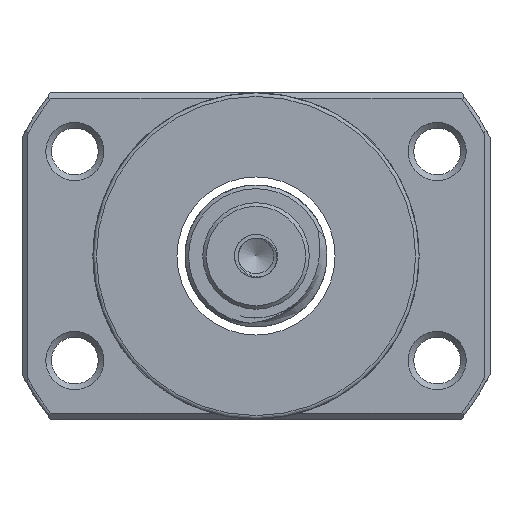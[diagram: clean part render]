
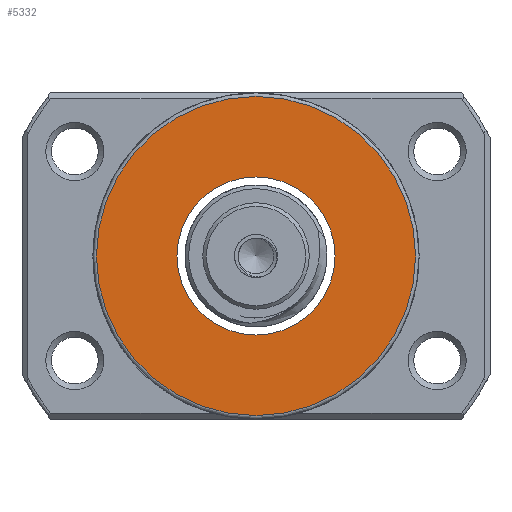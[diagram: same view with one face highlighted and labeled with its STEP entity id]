
A CAD part, left-side view. The second image highlights one B-rep face of the part: STEP entity #5332.
In plain terms, the highlighted planar face has unit normal (-1, 0, 0).
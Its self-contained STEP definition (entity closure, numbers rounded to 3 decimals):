
#1266 = PLANE ( 'NONE',  #15368 ) ;
#1500 = CARTESIAN_POINT ( 'NONE',  ( -53.324, 11.15, 0. ) ) ;
#2101 = DIRECTION ( 'NONE',  ( -1., 0., 0. ) ) ;
#3226 = DIRECTION ( 'NONE',  ( -1., 0., 0. ) ) ;
#5180 = CARTESIAN_POINT ( 'NONE',  ( -53.324, 0., 22.5 ) ) ;
#5332 = ADVANCED_FACE ( 'NONE', ( #7275, #10967 ), #1266, .T. ) ;
#7187 = EDGE_LOOP ( 'NONE', ( #17997 ) ) ;
#7275 = FACE_OUTER_BOUND ( 'NONE', #23609, .T. ) ;
#7902 = AXIS2_PLACEMENT_3D ( 'NONE', #13292, #2101, #24266 ) ;
#9246 = DIRECTION ( 'NONE',  ( 0., 0., 1. ) ) ;
#10725 = DIRECTION ( 'NONE',  ( 0., 0., 1. ) ) ;
#10955 = CARTESIAN_POINT ( 'NONE',  ( -53.324, 0., 11.15 ) ) ;
#10967 = FACE_BOUND ( 'NONE', #7187, .T. ) ;
#12820 = DIRECTION ( 'NONE',  ( -1., 0., 0. ) ) ;
#13292 = CARTESIAN_POINT ( 'NONE',  ( -53.324, 0., 0. ) ) ;
#13799 = CIRCLE ( 'NONE', #7902, 11.15 ) ;
#14529 = VERTEX_POINT ( 'NONE', #5180 ) ;
#14652 = VERTEX_POINT ( 'NONE', #10955 ) ;
#15368 = AXIS2_PLACEMENT_3D ( 'NONE', #1500, #12820, #9246 ) ;
#15406 = EDGE_CURVE ( 'NONE', #14529, #14529, #24091, .T. ) ;
#16913 = EDGE_CURVE ( 'NONE', #14652, #14652, #13799, .T. ) ;
#17997 = ORIENTED_EDGE ( 'NONE', *, *, #16913, .F. ) ;
#20082 = CARTESIAN_POINT ( 'NONE',  ( -53.324, 0., 0. ) ) ;
#21314 = AXIS2_PLACEMENT_3D ( 'NONE', #20082, #3226, #10725 ) ;
#22750 = ORIENTED_EDGE ( 'NONE', *, *, #15406, .T. ) ;
#23609 = EDGE_LOOP ( 'NONE', ( #22750 ) ) ;
#24091 = CIRCLE ( 'NONE', #21314, 22.5 ) ;
#24266 = DIRECTION ( 'NONE',  ( 0., 0., 1. ) ) ;
